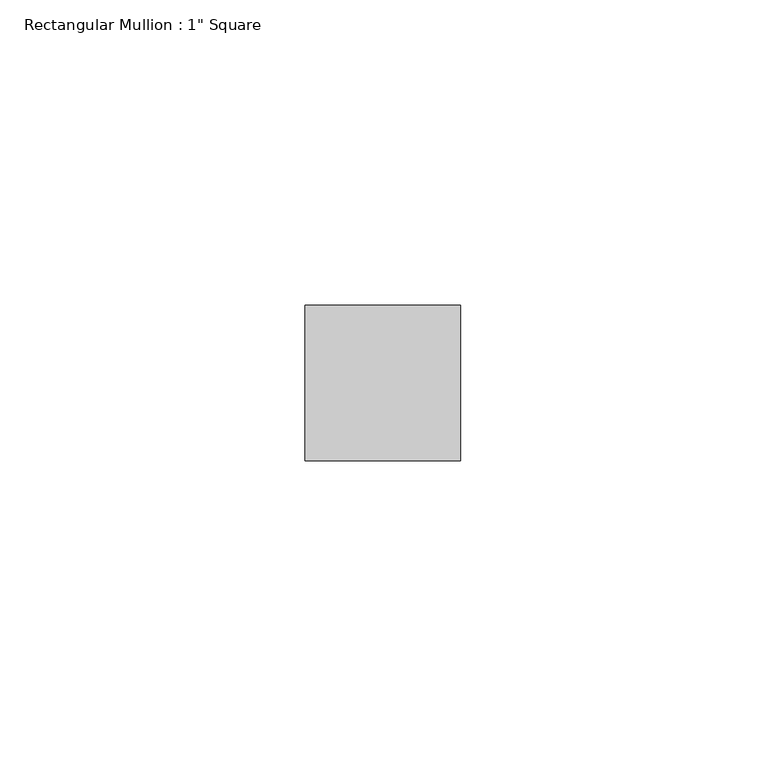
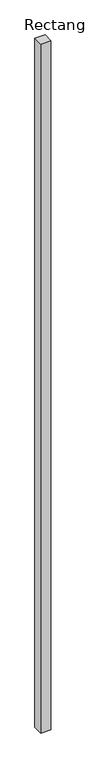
"""IFC4 building model written with IfcOpenShell, lengths in millimetres: member geometry."""

from ifc_helpers import new_model, si_unit, frame, origin, place, context, project, spatial, polyline, outline, extrude, source, transform, mapped, element, save


def member_20199af6(model_context):
    return source(origin(), model_context, "Body", "SweptSolid", [
        extrude(outline(polyline([(12.7, 12.7), (12.7, -12.7), (-12.7, -12.7), (-12.7, 12.7), (12.7, 12.7)])), frame((0.0, 0.0, -1823.6398033), z_axis=(0.0, 0.0, 1.0), x_axis=(1.0, 0.0, 0.0)), (0.0, 0.0, 1.0), 1823.6398033),
    ])


if __name__ == "__main__":
    model = new_model("IFC4")
    model_context = context("Model", 3, world=origin())
    ifc_project = project(units=[si_unit("LENGTHUNIT", "METRE", prefix="MILLI")], contexts=[model_context])
    site = spatial("IfcSite", under=ifc_project)
    building = spatial("IfcBuilding", under=site)
    placement = place(None, origin())
    member_shape = member_20199af6(model_context)
    element("IfcMember", 1, ObjectType="Rectangular Mullion : 1\" Square", at=placement, inside=building, context=model_context, shape_type="MappedRepresentation", body=[
        mapped(member_shape, transform((0.0, 0.0, 0.0), x_axis=(1.0, 0.0, 0.0), y_axis=(0.0, 1.0, 0.0), z_axis=(0.0, 0.0, 1.0))),
    ])
    save(model, "model.ifc")
